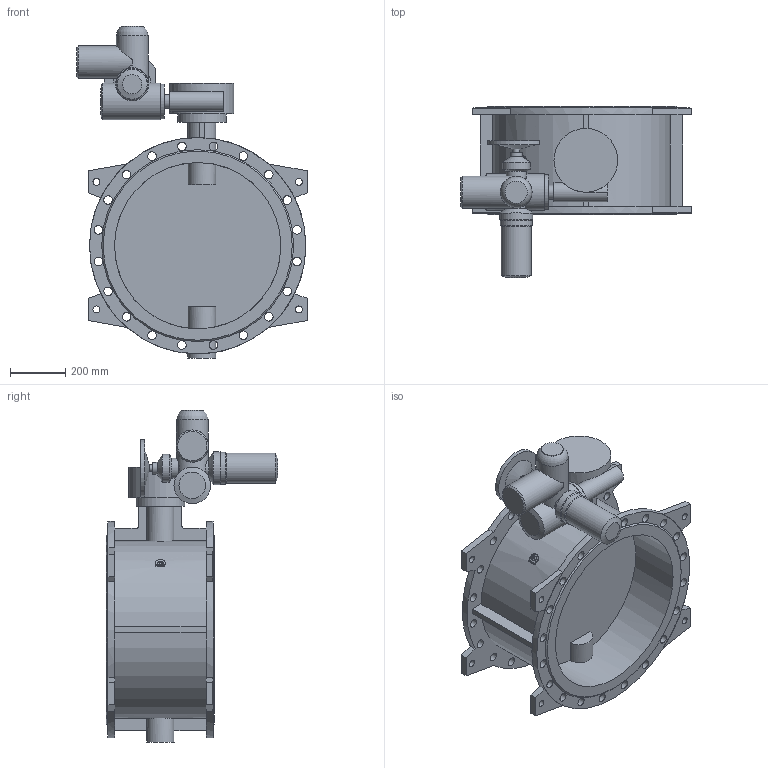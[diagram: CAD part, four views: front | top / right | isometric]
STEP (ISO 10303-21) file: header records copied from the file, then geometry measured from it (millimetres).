
FILE_DESCRIPTION(('STEP AP203'), '1');
FILE_NAME('Çàòâîð 023F.Z DN600 PN10 + ðåäóêòîð + ÌÒ903.À10', '', ('UNSPECIFIED'), ('UNSPECIFIED'), 'ASCON STEP Converter 1.6', 'ASCON Math Kernel', '');
FILE_SCHEMA(('CONFIG_CONTROL_DESIGN'));
Length unit declared in the file: millimetre
Bounding box: 831 x 618 x 1197 mm (x, y, z)
Volume: 59063697.7 mm3; surface area: 3709228.3 mm2
Topology: 1 solids, 1 shells, 228 faces, 561 edges, 368 vertices
Faces by surface type: plane 109, cylinder 107, cone 11, torus 1
Full cylindrical faces by diameter (mm): 8.5 x4, 12 x4, 14 x4, 18 x4, 24 x1, 25 x8, 31 x40, 42 x1, 50 x1, 66 x1, 70 x1, 72 x1, 80 x1, 100 x2, 108 x1, 114 x1, 115 x1, 116 x1, 119 x1, 125 x1, 132 x1, 175 x1, 230 x1, 600 x2, 780 x2
Entity records: 10419 total; most frequent: CARTESIAN_POINT 3228, DIRECTION 1112, ORIENTED_EDGE 918, AXIS2_PLACEMENT_3D 459, EDGE_CURVE 459, EDGE_LOOP 458, VERTEX_POINT 367, FACE_BOUND 272
